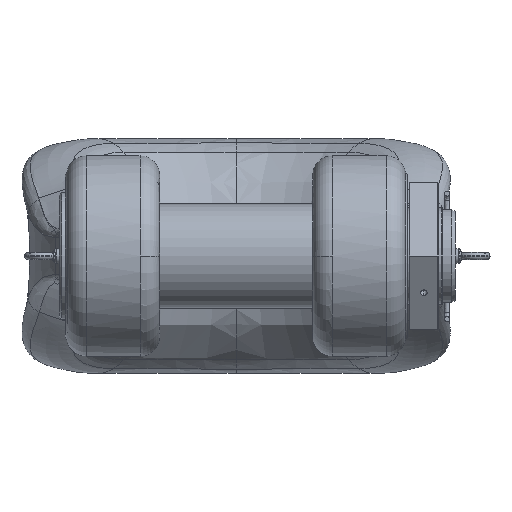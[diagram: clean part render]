
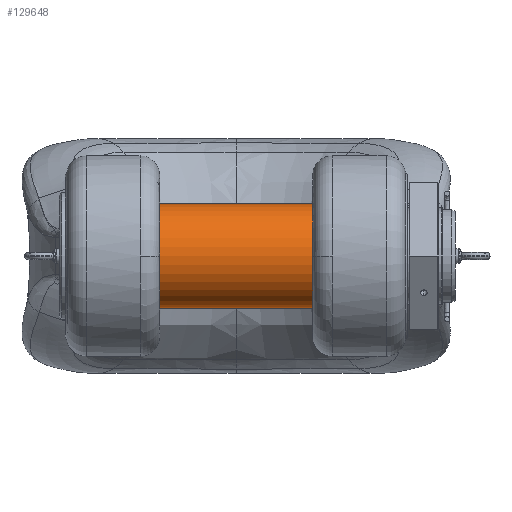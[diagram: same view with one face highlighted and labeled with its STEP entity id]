
A CAD part, front view. The second image highlights one B-rep face of the part: STEP entity #129648.
In plain terms, the highlighted cylindrical face has radius 160 mm (diameter 320 mm), a partial arc.
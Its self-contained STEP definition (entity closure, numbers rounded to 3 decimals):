
#123547=DIRECTION('',(0.,0.,1.));
#123548=VECTOR('',#123547,998.);
#123549=CARTESIAN_POINT('',(160.,0.,7.));
#123550=LINE('',#123549,#123548);
#123596=CARTESIAN_POINT('',(0.,0.,7.));
#123597=DIRECTION('',(0.,0.,-1.));
#123598=DIRECTION('',(1.,0.,0.));
#123599=AXIS2_PLACEMENT_3D('',#123596,#123597,#123598);
#123604=DIRECTION('',(0.,0.,1.));
#123605=VECTOR('',#123604,998.);
#123606=CARTESIAN_POINT('',(-160.,0.,7.));
#123607=LINE('',#123606,#123605);
#123611=CARTESIAN_POINT('',(0.,0.,1005.));
#123612=DIRECTION('',(0.,0.,1.));
#123613=DIRECTION('',(-1.,0.,0.));
#123614=AXIS2_PLACEMENT_3D('',#123611,#123612,#123613);
#128575=CARTESIAN_POINT('',(-160.,0.,1005.));
#128576=CARTESIAN_POINT('',(160.,0.,1005.));
#128577=VERTEX_POINT('',#128575);
#128578=VERTEX_POINT('',#128576);
#129143=CARTESIAN_POINT('',(-160.,0.,7.));
#129145=VERTEX_POINT('',#129143);
#129147=CARTESIAN_POINT('',(160.,0.,7.));
#129148=VERTEX_POINT('',#129147);
#129637=CARTESIAN_POINT('',(0.,0.,0.));
#129638=DIRECTION('',(0.,0.,1.));
#129639=DIRECTION('',(1.,0.,0.));
#129640=AXIS2_PLACEMENT_3D('',#129637,#129638,#129639);
#129641=CYLINDRICAL_SURFACE('',#129640,160.);
#129642=ORIENTED_EDGE('',*,*,#129619,.T.);
#129643=ORIENTED_EDGE('',*,*,#129601,.T.);
#129644=ORIENTED_EDGE('',*,*,#129555,.T.);
#129645=ORIENTED_EDGE('',*,*,#129598,.F.);
#129646=EDGE_LOOP('',(#129642,#129643,#129644,#129645));
#129647=FACE_OUTER_BOUND('',#129646,.F.);
#129648=ADVANCED_FACE('',(#129647),#129641,.T.);
#123600=CIRCLE('',#123599,160.);
#123615=CIRCLE('',#123614,160.);
#129555=EDGE_CURVE('',#128577,#128578,#123615,.T.);
#129598=EDGE_CURVE('',#129148,#128578,#123550,.T.);
#129601=EDGE_CURVE('',#129145,#128577,#123607,.T.);
#129619=EDGE_CURVE('',#129148,#129145,#123600,.T.);
